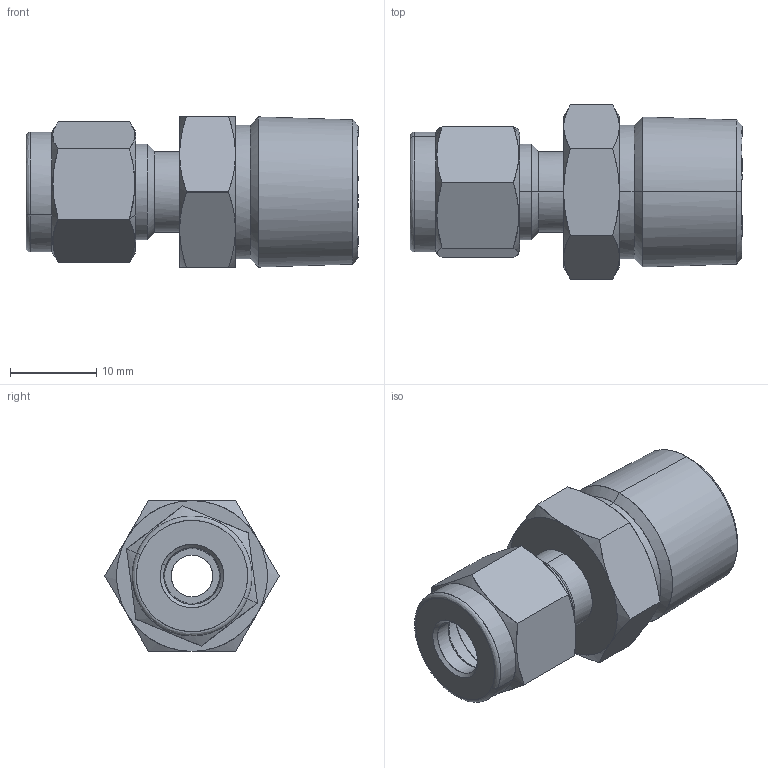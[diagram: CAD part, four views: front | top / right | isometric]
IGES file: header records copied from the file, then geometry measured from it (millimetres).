
Start section: Comment
Global section: file name: SMC4-6N.igs; native system:  By UGS Corp.; preprocessor: XPlus GENERIC/IGES 3.0; author: Author; organization: Title; date: 20100113.145851; units: millimetre
Bounding box: 38.46 x 20.16 x 17.46 mm (x, y, z)
Surface area: 3841 mm2 (no closed solid volume)
Topology: 0 solids, 0 shells, 95 faces, 540 edges, 535 vertices
Faces by surface type: bspline 95
